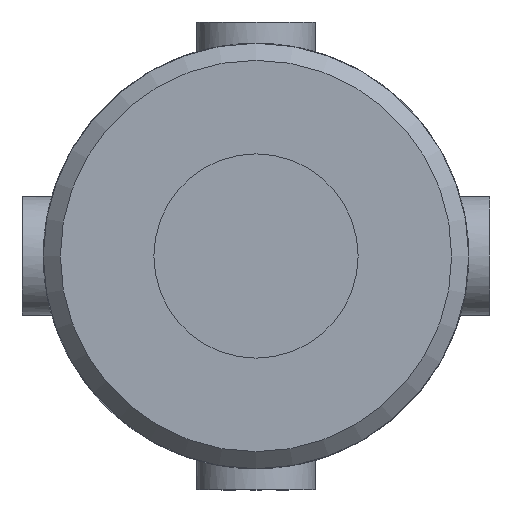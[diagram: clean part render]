
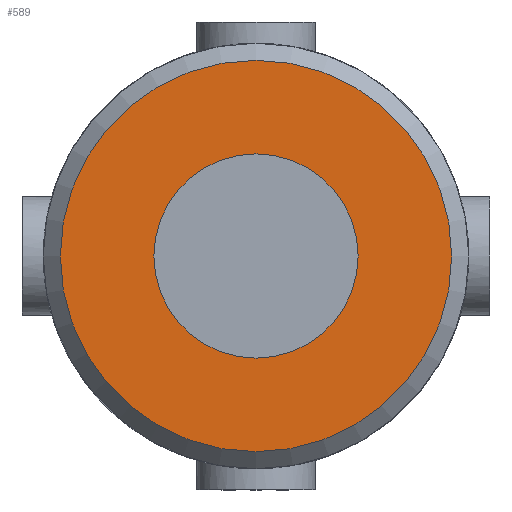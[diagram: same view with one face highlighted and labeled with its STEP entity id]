
A CAD part, left-side view. The second image highlights one B-rep face of the part: STEP entity #589.
In plain terms, the highlighted planar face has unit normal (-1, 0, 0) as drawn and (0, -1, 0) by its records, which use the part's own axes.
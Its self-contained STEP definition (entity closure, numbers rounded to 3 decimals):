
#121=PLANE('',#644);
#145=FACE_BOUND('',#221,.T.);
#168=FACE_OUTER_BOUND('',#220,.T.);
#220=EDGE_LOOP('',(#468));
#221=EDGE_LOOP('',(#469));
#257=CIRCLE('',#639,6.);
#259=CIRCLE('',#642,11.5);
#292=VERTEX_POINT('',#908);
#294=VERTEX_POINT('',#913);
#354=EDGE_CURVE('',#292,#292,#257,.T.);
#356=EDGE_CURVE('',#294,#294,#259,.T.);
#468=ORIENTED_EDGE('',*,*,#356,.F.);
#469=ORIENTED_EDGE('',*,*,#354,.T.);
#589=ADVANCED_FACE('',(#168,#145),#121,.F.);
#639=AXIS2_PLACEMENT_3D('',#909,#749,#750);
#642=AXIS2_PLACEMENT_3D('',#914,#755,#756);
#644=AXIS2_PLACEMENT_3D('',#1082,#763,#764);
#749=DIRECTION('center_axis',(0.,1.,0.));
#750=DIRECTION('ref_axis',(-1.,0.,0.));
#755=DIRECTION('center_axis',(0.,1.,0.));
#756=DIRECTION('ref_axis',(1.,0.,0.));
#763=DIRECTION('center_axis',(0.,1.,0.));
#764=DIRECTION('ref_axis',(0.,0.,1.));
#908=CARTESIAN_POINT('',(6.,-34.5,0.));
#909=CARTESIAN_POINT('Origin',(0.,-34.5,0.));
#913=CARTESIAN_POINT('',(-11.5,-34.5,0.));
#914=CARTESIAN_POINT('Origin',(0.,-34.5,0.));
#1082=CARTESIAN_POINT('Origin',(0.,-34.5,0.));
